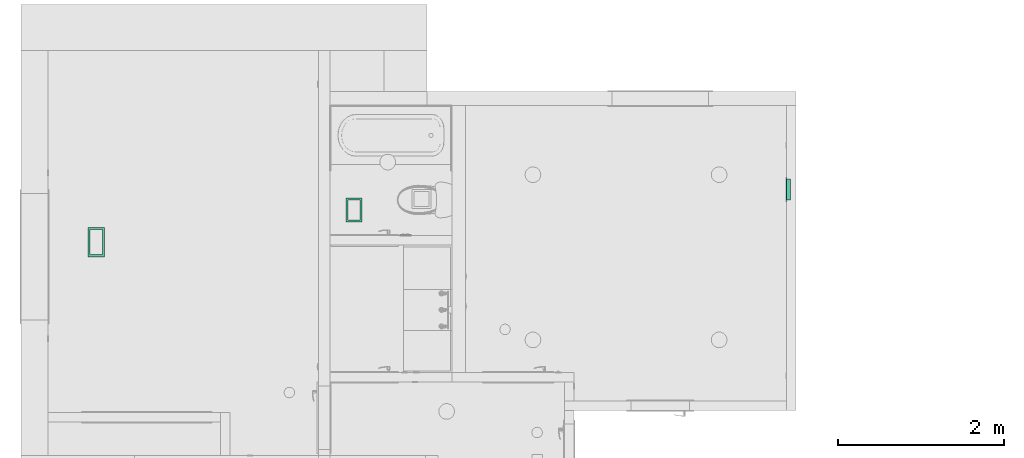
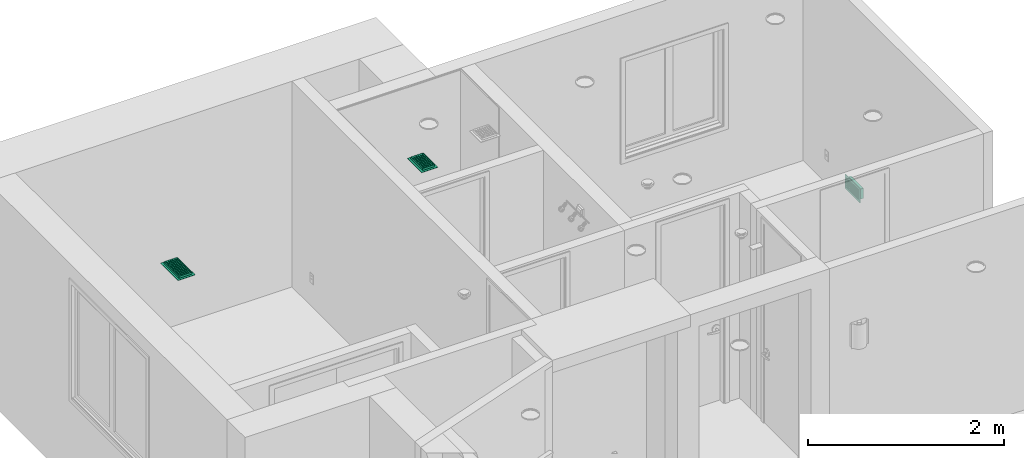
# One storey, part 17 of 48: 3 distribution flow elements.
"""IFC2X3 building model written with IfcOpenShell, lengths in inches."""

from ifc_helpers import new_model, entity, si_unit, converted_unit, derived_unit, money_unit, direction, frame, origin_with_axes, place, context, subcontext, project, spatial, open_shell, faceted_brep, surface_model, type_object, element, save


model = new_model("IFC2X3")

# Units and contexts
model_context = context("Model", 3, precision=0.00039370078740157, world=origin_with_axes(), true_north=direction((0.0, 1.0)))
plan_context = context("Plan", 3, precision=0.00039370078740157, world=origin_with_axes(), true_north=direction((0.0, 1.0)))
body_context = subcontext(model_context, "Body", "Model", "MODEL_VIEW")
ifc_project = project(units=[converted_unit("LENGTHUNIT", "INCH", entity("IfcPositiveLengthMeasure", 0.0254), si_unit("LENGTHUNIT", "METRE"), dimensions=[1, 0, 0, 0, 0, 0, 0]), converted_unit("AREAUNIT", "SQUARE_FOOT", entity("IfcPositiveLengthMeasure", 0.09290304), si_unit("AREAUNIT", "SQUARE_METRE"), dimensions=[2, 0, 0, 0, 0, 0, 0]), si_unit("PLANEANGLEUNIT", "RADIAN"), si_unit("SOLIDANGLEUNIT", "STERADIAN"), money_unit("USD"), converted_unit("TIMEUNIT", "Year", entity("IfcTimeMeasure", 31557600.0), si_unit("TIMEUNIT", "SECOND"), dimensions=[0, 0, 1, 0, 0, 0, 0]), si_unit("MASSUNIT", "GRAM", prefix="KILO"), si_unit("THERMODYNAMICTEMPERATUREUNIT", "DEGREE_CELSIUS"), si_unit("LUMINOUSINTENSITYUNIT", "LUMEN"), si_unit("ENERGYUNIT", "JOULE", prefix="MEGA"), derived_unit("SPECIFICHEATCAPACITYUNIT", [(si_unit("ENERGYUNIT", "JOULE"), 1), (si_unit("MASSUNIT", "GRAM", prefix="KILO"), -1), (si_unit("THERMODYNAMICTEMPERATUREUNIT", "KELVIN"), -1)])], contexts=[model_context, plan_context])

# Site, building, storey
site_placement = place(None, origin_with_axes())
site = spatial("IfcSite", under=ifc_project, at=site_placement, Name="Site", CompositionType="ELEMENT")
building_placement = place(site_placement, origin_with_axes())
building = spatial("IfcBuilding", under=site, at=building_placement, Name="Building", CompositionType="ELEMENT")
storey_placement = place(building_placement, origin_with_axes())
storey = spatial("IfcBuildingStorey", under=building, at=storey_placement, Name="First Floor", CompositionType="ELEMENT", Elevation=0.0)

# Distribution flow elements
valve_type_1 = type_object("IfcValveType", Name="Ceiling Grille", PredefinedType="NOTDEFINED")
distribution_flow_element_1_placement = place(storey_placement, frame((-226.507627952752, 488.4974340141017, 100.9999999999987), z_axis=(0.0, 0.0, 1.0), x_axis=(-1.0, 0.0, 0.0)))
element("IfcDistributionFlowElement", 1, at=distribution_flow_element_1_placement, inside=storey, type_object=valve_type_1, Name="FU - 007", context=body_context, shape_type="SurfaceModel", body=[
    faceted_brep([(-3.999876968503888, 6.99987696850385, -0.196850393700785), (-3.999876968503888, 6.99987696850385, 0.0), (3.999876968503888, 6.99987696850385, 0.0), (3.999876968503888, 6.99987696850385, -0.196850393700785), (-3.999876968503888, -6.99987696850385, -0.196850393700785), (-3.999876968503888, -6.99987696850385, 0.0), (3.999876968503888, -6.99987696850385, 0.0), (-3.015624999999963, 6.015624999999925, 0.0), (3.015624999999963, 6.015624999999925, 0.0), (3.015624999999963, -6.015624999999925, 0.0), (-3.015624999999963, -6.015624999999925, 0.0), (3.999876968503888, -6.99987696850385, -0.196850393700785), (-3.015624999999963, 6.015624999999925, -0.196850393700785), (-3.015624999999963, -6.015624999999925, -0.196850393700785), (3.015624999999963, -6.015624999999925, -0.196850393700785), (3.015624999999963, 6.015624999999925, -0.196850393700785)], [[[0, 1, 2, 3]], [[4, 5, 1, 0]], [[1, 5, 6, 2], [7, 8, 9, 10]], [[3, 2, 6, 11]], [[0, 3, 11, 4], [12, 13, 14, 15]], [[11, 6, 5, 4]], [[15, 8, 7, 12]], [[14, 9, 8, 15]], [[13, 10, 9, 14]], [[12, 7, 10, 13]]]),
    surface_model("IfcShellBasedSurfaceModel", [(2.976254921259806, 5.999999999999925, -0.196850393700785), (2.976254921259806, 5.999999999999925, 0.78740157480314), (-2.976254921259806, 5.999999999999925, 0.78740157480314), (-2.976254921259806, 5.999999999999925, -0.196850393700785)], [open_shell([[[0, 1, 2, 3]]])]),
    surface_model("IfcShellBasedSurfaceModel", [(2.976254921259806, 4.999999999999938, -0.196850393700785), (2.976254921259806, 4.999999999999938, 0.78740157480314), (-2.976254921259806, 4.999999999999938, 0.78740157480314), (-2.976254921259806, 4.999999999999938, -0.196850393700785)], [open_shell([[[0, 1, 2, 3]]])]),
    surface_model("IfcShellBasedSurfaceModel", [(2.976254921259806, 3.99999999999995, -0.196850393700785), (2.976254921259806, 3.99999999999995, 0.78740157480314), (-2.976254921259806, 3.99999999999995, 0.78740157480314), (-2.976254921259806, 3.99999999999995, -0.196850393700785)], [open_shell([[[0, 1, 2, 3]]])]),
    surface_model("IfcShellBasedSurfaceModel", [(2.976254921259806, 2.999999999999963, -0.196850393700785), (2.976254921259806, 2.999999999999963, 0.78740157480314), (-2.976254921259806, 2.999999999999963, 0.78740157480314), (-2.976254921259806, 2.999999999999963, -0.196850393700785)], [open_shell([[[0, 1, 2, 3]]])]),
    surface_model("IfcShellBasedSurfaceModel", [(2.976254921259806, 1.999999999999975, -0.196850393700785), (2.976254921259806, 1.999999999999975, 0.78740157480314), (-2.976254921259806, 1.999999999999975, 0.78740157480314), (-2.976254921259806, 1.999999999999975, -0.196850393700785)], [open_shell([[[0, 1, 2, 3]]])]),
    surface_model("IfcShellBasedSurfaceModel", [(2.976254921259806, 0.9999999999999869, -0.196850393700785), (2.976254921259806, 0.9999999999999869, 0.78740157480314), (-2.976254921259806, 0.9999999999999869, 0.78740157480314), (-2.976254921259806, 0.9999999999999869, -0.196850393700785)], [open_shell([[[0, 1, 2, 3]]])]),
    surface_model("IfcShellBasedSurfaceModel", [(2.976254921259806, 0.0, -0.196850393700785), (2.976254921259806, 0.0, 0.78740157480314), (-2.976254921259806, 0.0, 0.78740157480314), (-2.976254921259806, 0.0, -0.196850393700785)], [open_shell([[[0, 1, 2, 3]]])]),
    surface_model("IfcShellBasedSurfaceModel", [(2.976254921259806, -0.999999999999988, -0.196850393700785), (2.976254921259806, -0.999999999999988, 0.78740157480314), (-2.976254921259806, -0.999999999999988, 0.78740157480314), (-2.976254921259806, -0.999999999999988, -0.196850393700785)], [open_shell([[[0, 1, 2, 3]]])]),
    surface_model("IfcShellBasedSurfaceModel", [(2.976254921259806, -1.999999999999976, -0.196850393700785), (2.976254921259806, -1.999999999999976, 0.78740157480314), (-2.976254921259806, -1.999999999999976, 0.78740157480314), (-2.976254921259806, -1.999999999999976, -0.196850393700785)], [open_shell([[[0, 1, 2, 3]]])]),
    surface_model("IfcShellBasedSurfaceModel", [(2.976254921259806, -2.999999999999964, -0.196850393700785), (2.976254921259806, -2.999999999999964, 0.78740157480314), (-2.976254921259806, -2.999999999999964, 0.78740157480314), (-2.976254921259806, -2.999999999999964, -0.196850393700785)], [open_shell([[[0, 1, 2, 3]]])]),
    surface_model("IfcShellBasedSurfaceModel", [(2.976254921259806, -3.999999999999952, -0.196850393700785), (2.976254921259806, -3.999999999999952, 0.78740157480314), (-2.976254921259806, -3.999999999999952, 0.78740157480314), (-2.976254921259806, -3.999999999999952, -0.196850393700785)], [open_shell([[[0, 1, 2, 3]]])]),
    surface_model("IfcShellBasedSurfaceModel", [(2.976254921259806, -4.999999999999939, -0.196850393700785), (2.976254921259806, -4.999999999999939, 0.78740157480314), (-2.976254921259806, -4.999999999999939, 0.78740157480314), (-2.976254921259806, -4.999999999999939, -0.196850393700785)], [open_shell([[[0, 1, 2, 3]]])]),
    surface_model("IfcShellBasedSurfaceModel", [(2.976254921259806, -5.999999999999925, -0.196850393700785), (2.976254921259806, -5.999999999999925, 0.78740157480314), (-2.976254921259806, -5.999999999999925, 0.78740157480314), (-2.976254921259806, -5.999999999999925, -0.196850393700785)], [open_shell([[[0, 1, 2, 3]]])]),
    surface_model("IfcShellBasedSurfaceModel", [(-2.999999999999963, -5.976254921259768, -0.196850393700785), (-2.999999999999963, -5.976254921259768, 0.78740157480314), (-2.999999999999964, 5.976254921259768, 0.78740157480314), (-2.999999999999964, 5.976254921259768, -0.196850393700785)], [open_shell([[[0, 1, 2, 3]]])]),
    surface_model("IfcShellBasedSurfaceModel", [(-1.999999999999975, -5.976254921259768, -0.196850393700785), (-1.999999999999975, -5.976254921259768, 0.78740157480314), (-1.999999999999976, 5.976254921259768, 0.78740157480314), (-1.999999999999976, 5.976254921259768, -0.196850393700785)], [open_shell([[[0, 1, 2, 3]]])]),
    surface_model("IfcShellBasedSurfaceModel", [(-0.9999999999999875, -5.976254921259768, -0.196850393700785), (-0.9999999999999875, -5.976254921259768, 0.78740157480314), (-0.9999999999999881, 5.976254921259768, 0.78740157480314), (-0.9999999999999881, 5.976254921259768, -0.196850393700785)], [open_shell([[[0, 1, 2, 3]]])]),
    surface_model("IfcShellBasedSurfaceModel", [(0.0, -5.976254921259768, -0.196850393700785), (0.0, -5.976254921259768, 0.78740157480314), (0.0, 5.976254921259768, 0.78740157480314), (0.0, 5.976254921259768, -0.196850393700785)], [open_shell([[[0, 1, 2, 3]]])]),
    surface_model("IfcShellBasedSurfaceModel", [(0.999999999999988, -5.976254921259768, -0.196850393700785), (0.999999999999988, -5.976254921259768, 0.78740157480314), (0.9999999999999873, 5.976254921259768, 0.78740157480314), (0.9999999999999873, 5.976254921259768, -0.196850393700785)], [open_shell([[[0, 1, 2, 3]]])]),
    surface_model("IfcShellBasedSurfaceModel", [(1.999999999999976, -5.976254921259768, -0.196850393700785), (1.999999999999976, -5.976254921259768, 0.78740157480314), (1.999999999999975, 5.976254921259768, 0.78740157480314), (1.999999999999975, 5.976254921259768, -0.196850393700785)], [open_shell([[[0, 1, 2, 3]]])]),
    surface_model("IfcShellBasedSurfaceModel", [(2.999999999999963, -5.976254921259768, -0.196850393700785), (2.999999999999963, -5.976254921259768, 0.78740157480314), (2.999999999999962, 5.976254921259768, 0.78740157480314), (2.999999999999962, 5.976254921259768, -0.196850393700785)], [open_shell([[[0, 1, 2, 3]]])]),
    surface_model("IfcShellBasedSurfaceModel", [(-3.015624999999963, -6.015624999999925, 0.0), (-3.015624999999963, -6.015624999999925, 0.9999999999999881), (-3.015624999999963, 6.015624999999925, 0.9999999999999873), (-3.015624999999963, 6.015624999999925, 0.0), (3.015624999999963, -6.015624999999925, 0.0), (3.015624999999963, -6.015624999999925, 0.9999999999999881), (3.015624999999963, 6.015624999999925, 0.9999999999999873), (3.015624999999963, 6.015624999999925, 0.0)], [open_shell([[[0, 1, 2, 3]], [[4, 5, 1, 0]], [[3, 2, 6, 7]], [[7, 6, 5, 4]]])]),
])
distribution_flow_element_2_placement = place(storey_placement, frame((-104.0071560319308, 503.7514185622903, 100.9999999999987), z_axis=(0.0, 0.0, 1.0), x_axis=(-1.0, 0.0, 0.0)))
element("IfcDistributionFlowElement", 2, at=distribution_flow_element_2_placement, inside=storey, type_object=valve_type_1, Name="FU - 007", context=body_context, shape_type="SurfaceModel", body=[
    faceted_brep([(-3.749876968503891, 5.749876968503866, -0.196850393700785), (-3.749876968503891, 5.749876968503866, 0.0), (3.749876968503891, 5.749876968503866, 0.0), (3.749876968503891, 5.749876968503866, -0.196850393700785), (-3.749876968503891, -5.749876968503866, -0.196850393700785), (-3.749876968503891, -5.749876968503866, 0.0), (3.749876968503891, -5.749876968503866, 0.0), (-2.765624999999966, 4.765624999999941, 0.0), (2.765624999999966, 4.765624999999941, 0.0), (2.765624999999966, -4.765624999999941, 0.0), (-2.765624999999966, -4.765624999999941, 0.0), (3.749876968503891, -5.749876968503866, -0.196850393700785), (-2.765624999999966, 4.765624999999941, -0.196850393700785), (-2.765624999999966, -4.765624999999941, -0.196850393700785), (2.765624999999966, -4.765624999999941, -0.196850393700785), (2.765624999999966, 4.765624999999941, -0.196850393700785)], [[[0, 1, 2, 3]], [[4, 5, 1, 0]], [[1, 5, 6, 2], [7, 8, 9, 10]], [[3, 2, 6, 11]], [[0, 3, 11, 4], [12, 13, 14, 15]], [[11, 6, 5, 4]], [[15, 8, 7, 12]], [[14, 9, 8, 15]], [[13, 10, 9, 14]], [[12, 7, 10, 13]]]),
    surface_model("IfcShellBasedSurfaceModel", [(2.726254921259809, 4.499999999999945, -0.196850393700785), (2.726254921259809, 4.499999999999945, 0.78740157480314), (-2.726254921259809, 4.499999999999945, 0.78740157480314), (-2.726254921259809, 4.499999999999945, -0.196850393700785)], [open_shell([[[0, 1, 2, 3]]])]),
    surface_model("IfcShellBasedSurfaceModel", [(2.726254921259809, 3.499999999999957, -0.196850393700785), (2.726254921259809, 3.499999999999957, 0.78740157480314), (-2.726254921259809, 3.499999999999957, 0.78740157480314), (-2.726254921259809, 3.499999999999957, -0.196850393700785)], [open_shell([[[0, 1, 2, 3]]])]),
    surface_model("IfcShellBasedSurfaceModel", [(2.726254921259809, 2.499999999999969, -0.196850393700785), (2.726254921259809, 2.499999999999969, 0.78740157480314), (-2.726254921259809, 2.499999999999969, 0.78740157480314), (-2.726254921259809, 2.499999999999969, -0.196850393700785)], [open_shell([[[0, 1, 2, 3]]])]),
    surface_model("IfcShellBasedSurfaceModel", [(2.726254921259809, 1.499999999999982, -0.196850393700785), (2.726254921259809, 1.499999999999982, 0.78740157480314), (-2.726254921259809, 1.499999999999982, 0.78740157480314), (-2.726254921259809, 1.499999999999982, -0.196850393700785)], [open_shell([[[0, 1, 2, 3]]])]),
    surface_model("IfcShellBasedSurfaceModel", [(2.726254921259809, 0.499999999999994, -0.196850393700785), (2.726254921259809, 0.4999999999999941, 0.78740157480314), (-2.726254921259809, 0.4999999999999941, 0.78740157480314), (-2.726254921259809, 0.499999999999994, -0.196850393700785)], [open_shell([[[0, 1, 2, 3]]])]),
    surface_model("IfcShellBasedSurfaceModel", [(2.726254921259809, -0.499999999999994, -0.196850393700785), (2.726254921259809, -0.4999999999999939, 0.78740157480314), (-2.726254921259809, -0.4999999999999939, 0.78740157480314), (-2.726254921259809, -0.499999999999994, -0.196850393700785)], [open_shell([[[0, 1, 2, 3]]])]),
    surface_model("IfcShellBasedSurfaceModel", [(2.726254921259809, -1.499999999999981, -0.196850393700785), (2.726254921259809, -1.499999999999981, 0.78740157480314), (-2.726254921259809, -1.499999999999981, 0.78740157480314), (-2.726254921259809, -1.499999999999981, -0.196850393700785)], [open_shell([[[0, 1, 2, 3]]])]),
    surface_model("IfcShellBasedSurfaceModel", [(2.726254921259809, -2.499999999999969, -0.196850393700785), (2.726254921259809, -2.499999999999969, 0.78740157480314), (-2.726254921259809, -2.499999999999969, 0.78740157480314), (-2.726254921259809, -2.499999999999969, -0.196850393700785)], [open_shell([[[0, 1, 2, 3]]])]),
    surface_model("IfcShellBasedSurfaceModel", [(2.726254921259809, -3.499999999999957, -0.196850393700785), (2.726254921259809, -3.499999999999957, 0.78740157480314), (-2.726254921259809, -3.499999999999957, 0.78740157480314), (-2.726254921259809, -3.499999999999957, -0.196850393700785)], [open_shell([[[0, 1, 2, 3]]])]),
    surface_model("IfcShellBasedSurfaceModel", [(2.726254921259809, -4.499999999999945, -0.196850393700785), (2.726254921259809, -4.499999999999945, 0.78740157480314), (-2.726254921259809, -4.499999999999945, 0.78740157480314), (-2.726254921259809, -4.499999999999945, -0.196850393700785)], [open_shell([[[0, 1, 2, 3]]])]),
    surface_model("IfcShellBasedSurfaceModel", [(-2.499999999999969, -4.726254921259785, -0.196850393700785), (-2.499999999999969, -4.726254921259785, 0.78740157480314), (-2.49999999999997, 4.726254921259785, 0.78740157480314), (-2.49999999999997, 4.726254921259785, -0.196850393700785)], [open_shell([[[0, 1, 2, 3]]])]),
    surface_model("IfcShellBasedSurfaceModel", [(-1.499999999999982, -4.726254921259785, -0.196850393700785), (-1.499999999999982, -4.726254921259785, 0.78740157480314), (-1.499999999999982, 4.726254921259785, 0.78740157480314), (-1.499999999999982, 4.726254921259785, -0.196850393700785)], [open_shell([[[0, 1, 2, 3]]])]),
    surface_model("IfcShellBasedSurfaceModel", [(-0.499999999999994, -4.726254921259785, -0.196850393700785), (-0.4999999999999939, -4.726254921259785, 0.78740157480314), (-0.4999999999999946, 4.726254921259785, 0.78740157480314), (-0.4999999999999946, 4.726254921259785, -0.196850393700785)], [open_shell([[[0, 1, 2, 3]]])]),
    surface_model("IfcShellBasedSurfaceModel", [(0.4999999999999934, -4.726254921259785, -0.196850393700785), (0.4999999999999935, -4.726254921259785, 0.78740157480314), (0.4999999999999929, 4.726254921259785, 0.78740157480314), (0.4999999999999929, 4.726254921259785, -0.196850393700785)], [open_shell([[[0, 1, 2, 3]]])]),
    surface_model("IfcShellBasedSurfaceModel", [(1.499999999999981, -4.726254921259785, -0.196850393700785), (1.499999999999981, -4.726254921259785, 0.78740157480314), (1.499999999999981, 4.726254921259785, 0.78740157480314), (1.499999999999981, 4.726254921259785, -0.196850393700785)], [open_shell([[[0, 1, 2, 3]]])]),
    surface_model("IfcShellBasedSurfaceModel", [(2.499999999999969, -4.726254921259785, -0.196850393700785), (2.499999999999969, -4.726254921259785, 0.78740157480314), (2.499999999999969, 4.726254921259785, 0.78740157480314), (2.499999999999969, 4.726254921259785, -0.196850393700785)], [open_shell([[[0, 1, 2, 3]]])]),
    surface_model("IfcShellBasedSurfaceModel", [(-2.765624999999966, -4.765624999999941, 0.0), (-2.765624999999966, -4.765624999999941, 0.999999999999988), (-2.765624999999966, 4.765624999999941, 0.9999999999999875), (-2.765624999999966, 4.765624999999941, 0.0), (2.765624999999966, -4.765624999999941, 0.0), (2.765624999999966, -4.765624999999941, 0.999999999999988), (2.765624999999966, 4.765624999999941, 0.9999999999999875), (2.765624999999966, 4.765624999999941, 0.0)], [open_shell([[[0, 1, 2, 3]], [[4, 5, 1, 0]], [[3, 2, 6, 7]], [[7, 6, 5, 4]]])]),
])
valve_type_2 = type_object("IfcValveType", Name="Sidewall Grille", PredefinedType="NOTDEFINED")
distribution_flow_element_3_placement = place(storey_placement, frame((101.4999999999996, 513.4999999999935, 10.49999999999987), z_axis=(0.0, 0.0, 1.0), x_axis=(0.0, -1.0, 0.0)))
element("IfcDistributionFlowElement", 3, at=distribution_flow_element_3_placement, inside=storey, type_object=valve_type_2, Name="FU - 004", context=body_context, shape_type="SurfaceModel", body=[
    faceted_brep([(5.999876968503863, -0.1968503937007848, -3.499876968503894), (-5.999876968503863, -0.1968503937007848, -3.499876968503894), (-5.999876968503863, 0.0, -3.499876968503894), (5.999876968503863, 0.0, -3.499876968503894), (5.999876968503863, -0.1968503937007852, 3.499876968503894), (-5.999876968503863, -0.1968503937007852, 3.499876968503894), (5.015624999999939, -0.1968503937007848, -2.515624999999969), (-5.015624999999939, -0.1968503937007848, -2.515624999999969), (-5.015624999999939, -0.1968503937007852, 2.515624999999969), (5.015624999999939, -0.1968503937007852, 2.515624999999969), (-5.999876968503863, 0.0, 3.499876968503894), (5.999876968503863, 0.0, 3.499876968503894), (5.015624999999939, 0.0, -2.515624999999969), (5.015624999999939, 0.0, 2.515624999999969), (-5.015624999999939, 0.0, 2.515624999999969), (-5.015624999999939, 0.0, -2.515624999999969)], [[[0, 1, 2, 3]], [[0, 4, 5, 1], [6, 7, 8, 9]], [[1, 5, 10, 2]], [[3, 2, 10, 11], [12, 13, 14, 15]], [[4, 0, 3, 11]], [[5, 4, 11, 10]], [[7, 6, 12, 15]], [[8, 7, 15, 14]], [[9, 8, 14, 13]], [[6, 9, 13, 12]]]),
    surface_model("IfcShellBasedSurfaceModel", [(-4.976254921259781, -0.1968503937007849, -2.499999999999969), (4.976254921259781, -0.1968503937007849, -2.499999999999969), (4.976254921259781, 0.7874015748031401, -2.499999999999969), (-4.976254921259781, 0.7874015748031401, -2.499999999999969)], [open_shell([[[0, 1, 2, 3]]])]),
    surface_model("IfcShellBasedSurfaceModel", [(-4.976254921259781, -0.1968503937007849, -1.499999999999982), (4.976254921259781, -0.1968503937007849, -1.499999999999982), (4.976254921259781, 0.7874015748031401, -1.499999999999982), (-4.976254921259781, 0.7874015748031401, -1.499999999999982)], [open_shell([[[0, 1, 2, 3]]])]),
    surface_model("IfcShellBasedSurfaceModel", [(-4.976254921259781, -0.196850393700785, -0.499999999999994), (4.976254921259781, -0.196850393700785, -0.499999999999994), (4.976254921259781, 0.7874015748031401, -0.499999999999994), (-4.976254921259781, 0.7874015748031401, -0.499999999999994)], [open_shell([[[0, 1, 2, 3]]])]),
    surface_model("IfcShellBasedSurfaceModel", [(-4.976254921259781, -0.196850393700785, 0.4999999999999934), (4.976254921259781, -0.196850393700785, 0.4999999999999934), (4.976254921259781, 0.78740157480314, 0.4999999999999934), (-4.976254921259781, 0.78740157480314, 0.4999999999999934)], [open_shell([[[0, 1, 2, 3]]])]),
    surface_model("IfcShellBasedSurfaceModel", [(-4.976254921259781, -0.1968503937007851, 1.499999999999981), (4.976254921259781, -0.1968503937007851, 1.499999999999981), (4.976254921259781, 0.7874015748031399, 1.499999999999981), (-4.976254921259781, 0.7874015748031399, 1.499999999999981)], [open_shell([[[0, 1, 2, 3]]])]),
    surface_model("IfcShellBasedSurfaceModel", [(-4.976254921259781, -0.1968503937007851, 2.499999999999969), (4.976254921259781, -0.1968503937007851, 2.499999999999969), (4.976254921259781, 0.7874015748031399, 2.499999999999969), (-4.976254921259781, 0.7874015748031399, 2.499999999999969)], [open_shell([[[0, 1, 2, 3]]])]),
    surface_model("IfcShellBasedSurfaceModel", [(4.999999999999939, -0.1968503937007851, 2.476254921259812), (4.999999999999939, -0.1968503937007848, -2.476254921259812), (4.999999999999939, 0.7874015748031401, -2.476254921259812), (4.999999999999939, 0.7874015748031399, 2.476254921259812)], [open_shell([[[0, 1, 2, 3]]])]),
    surface_model("IfcShellBasedSurfaceModel", [(3.999999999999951, -0.1968503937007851, 2.476254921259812), (3.999999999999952, -0.1968503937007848, -2.476254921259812), (3.999999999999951, 0.7874015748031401, -2.476254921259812), (3.999999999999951, 0.7874015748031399, 2.476254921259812)], [open_shell([[[0, 1, 2, 3]]])]),
    surface_model("IfcShellBasedSurfaceModel", [(2.999999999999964, -0.1968503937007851, 2.476254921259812), (2.999999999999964, -0.1968503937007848, -2.476254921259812), (2.999999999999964, 0.7874015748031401, -2.476254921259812), (2.999999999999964, 0.7874015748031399, 2.476254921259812)], [open_shell([[[0, 1, 2, 3]]])]),
    surface_model("IfcShellBasedSurfaceModel", [(1.999999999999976, -0.1968503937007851, 2.476254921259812), (1.999999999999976, -0.1968503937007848, -2.476254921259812), (1.999999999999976, 0.7874015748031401, -2.476254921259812), (1.999999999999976, 0.7874015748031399, 2.476254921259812)], [open_shell([[[0, 1, 2, 3]]])]),
    surface_model("IfcShellBasedSurfaceModel", [(0.999999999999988, -0.1968503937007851, 2.476254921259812), (0.9999999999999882, -0.1968503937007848, -2.476254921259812), (0.9999999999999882, 0.7874015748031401, -2.476254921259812), (0.999999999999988, 0.7874015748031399, 2.476254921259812)], [open_shell([[[0, 1, 2, 3]]])]),
    surface_model("IfcShellBasedSurfaceModel", [(0.0, -0.1968503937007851, 2.476254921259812), (0.0, -0.1968503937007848, -2.476254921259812), (0.0, 0.7874015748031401, -2.476254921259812), (0.0, 0.7874015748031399, 2.476254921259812)], [open_shell([[[0, 1, 2, 3]]])]),
    surface_model("IfcShellBasedSurfaceModel", [(-0.9999999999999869, -0.1968503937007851, 2.476254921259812), (-0.9999999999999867, -0.1968503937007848, -2.476254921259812), (-0.9999999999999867, 0.7874015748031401, -2.476254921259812), (-0.9999999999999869, 0.7874015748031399, 2.476254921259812)], [open_shell([[[0, 1, 2, 3]]])]),
    surface_model("IfcShellBasedSurfaceModel", [(-1.999999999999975, -0.1968503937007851, 2.476254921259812), (-1.999999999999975, -0.1968503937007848, -2.476254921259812), (-1.999999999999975, 0.7874015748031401, -2.476254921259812), (-1.999999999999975, 0.7874015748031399, 2.476254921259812)], [open_shell([[[0, 1, 2, 3]]])]),
    surface_model("IfcShellBasedSurfaceModel", [(-2.999999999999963, -0.1968503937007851, 2.476254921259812), (-2.999999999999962, -0.1968503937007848, -2.476254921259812), (-2.999999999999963, 0.7874015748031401, -2.476254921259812), (-2.999999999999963, 0.7874015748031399, 2.476254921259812)], [open_shell([[[0, 1, 2, 3]]])]),
    surface_model("IfcShellBasedSurfaceModel", [(-3.999999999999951, -0.1968503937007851, 2.476254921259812), (-3.99999999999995, -0.1968503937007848, -2.476254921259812), (-3.999999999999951, 0.7874015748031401, -2.476254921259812), (-3.999999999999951, 0.7874015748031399, 2.476254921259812)], [open_shell([[[0, 1, 2, 3]]])]),
    surface_model("IfcShellBasedSurfaceModel", [(-4.999999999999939, -0.1968503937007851, 2.476254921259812), (-4.999999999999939, -0.1968503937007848, -2.476254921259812), (-4.999999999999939, 0.7874015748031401, -2.476254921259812), (-4.999999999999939, 0.7874015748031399, 2.476254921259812)], [open_shell([[[0, 1, 2, 3]]])]),
    surface_model("IfcShellBasedSurfaceModel", [(-5.015624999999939, 0.0, -2.515624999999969), (-5.015624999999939, 0.0, 2.515624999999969), (-5.015624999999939, 1.999999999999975, 2.515624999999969), (-5.015624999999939, 1.999999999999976, -2.515624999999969), (5.015624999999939, 0.0, 2.515624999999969), (5.015624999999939, 1.999999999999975, 2.515624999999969), (5.015624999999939, 0.0, -2.515624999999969), (5.015624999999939, 1.999999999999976, -2.515624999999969)], [open_shell([[[0, 1, 2, 3]], [[1, 4, 5, 2]], [[6, 0, 3, 7]], [[4, 6, 7, 5]]])]),
])

save(model, "model.ifc")
